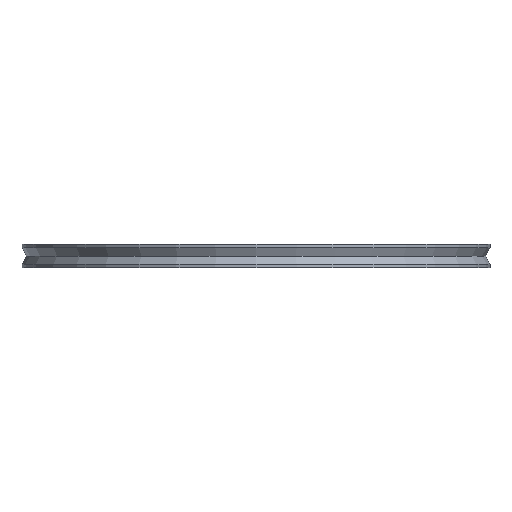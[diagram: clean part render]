
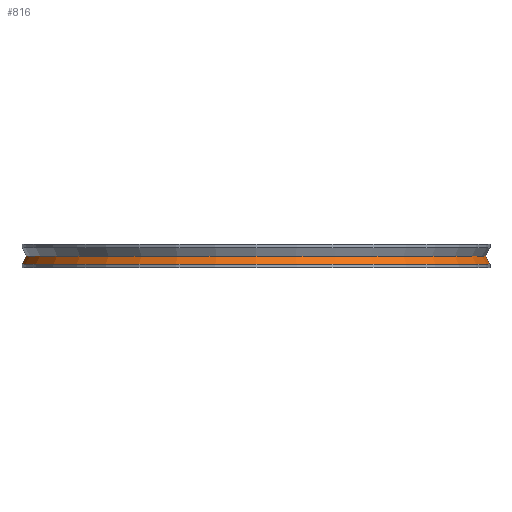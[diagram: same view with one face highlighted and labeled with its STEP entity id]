
A CAD part, front view. The second image highlights one B-rep face of the part: STEP entity #816.
In plain terms, the highlighted conical face has half-angle 27.5 degrees and reference radius 108.5 mm.
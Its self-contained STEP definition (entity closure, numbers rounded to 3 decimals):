
#16 = EDGE_CURVE ( 'NONE', #153, #538, #733, .T. ) ;
#41 = DIRECTION ( 'NONE',  ( 1., 0., 0. ) ) ;
#113 = EDGE_CURVE ( 'NONE', #590, #538, #603, .T. ) ;
#153 = VERTEX_POINT ( 'NONE', #175 ) ;
#156 = EDGE_CURVE ( 'NONE', #354, #153, #243, .T. ) ;
#158 = CARTESIAN_POINT ( 'NONE',  ( 108.5, 0., -9.342 ) ) ;
#172 = CARTESIAN_POINT ( 'NONE',  ( -108.5, 0., -9.342 ) ) ;
#175 = CARTESIAN_POINT ( 'NONE',  ( 106.5, 0., -5.5 ) ) ;
#185 = VECTOR ( 'NONE', #751, 1000. ) ;
#202 = CONICAL_SURFACE ( 'NONE', #776, 108.5, 0.48 ) ;
#239 = ORIENTED_EDGE ( 'NONE', *, *, #535, .T. ) ;
#241 = CARTESIAN_POINT ( 'NONE',  ( 108.5, 0., -9.342 ) ) ;
#243 = CIRCLE ( 'NONE', #574, 106.5 ) ;
#280 = FACE_OUTER_BOUND ( 'NONE', #831, .T. ) ;
#318 = ORIENTED_EDGE ( 'NONE', *, *, #113, .T. ) ;
#354 = VERTEX_POINT ( 'NONE', #529 ) ;
#355 = DIRECTION ( 'NONE',  ( 1., 0., 0. ) ) ;
#357 = CARTESIAN_POINT ( 'NONE',  ( -108.5, 0., -9.342 ) ) ;
#394 = ORIENTED_EDGE ( 'NONE', *, *, #16, .F. ) ;
#406 = DIRECTION ( 'NONE',  ( 0.462, 0., -0.887 ) ) ;
#422 = DIRECTION ( 'NONE',  ( 0., 0., 1. ) ) ;
#465 = DIRECTION ( 'NONE',  ( 0., 0., 1. ) ) ;
#529 = CARTESIAN_POINT ( 'NONE',  ( -106.5, 0., -5.5 ) ) ;
#535 = EDGE_CURVE ( 'NONE', #354, #590, #817, .T. ) ;
#536 = DIRECTION ( 'NONE',  ( 0., 0., -1. ) ) ;
#538 = VERTEX_POINT ( 'NONE', #241 ) ;
#545 = CARTESIAN_POINT ( 'NONE',  ( 0., 0., -9.342 ) ) ;
#547 = VECTOR ( 'NONE', #406, 1000. ) ;
#574 = AXIS2_PLACEMENT_3D ( 'NONE', #627, #422, #41 ) ;
#590 = VERTEX_POINT ( 'NONE', #172 ) ;
#603 = CIRCLE ( 'NONE', #684, 108.5 ) ;
#605 = CARTESIAN_POINT ( 'NONE',  ( 0., 0., -9.342 ) ) ;
#610 = ORIENTED_EDGE ( 'NONE', *, *, #156, .F. ) ;
#627 = CARTESIAN_POINT ( 'NONE',  ( 0., 0., -5.5 ) ) ;
#684 = AXIS2_PLACEMENT_3D ( 'NONE', #545, #465, #355 ) ;
#733 = LINE ( 'NONE', #158, #547 ) ;
#751 = DIRECTION ( 'NONE',  ( -0.462, 0., -0.887 ) ) ;
#776 = AXIS2_PLACEMENT_3D ( 'NONE', #605, #536, #794 ) ;
#794 = DIRECTION ( 'NONE',  ( -1., 0., 0. ) ) ;
#816 = ADVANCED_FACE ( 'NONE', ( #280 ), #202, .T. ) ;
#817 = LINE ( 'NONE', #357, #185 ) ;
#831 = EDGE_LOOP ( 'NONE', ( #394, #610, #239, #318 ) ) ;
